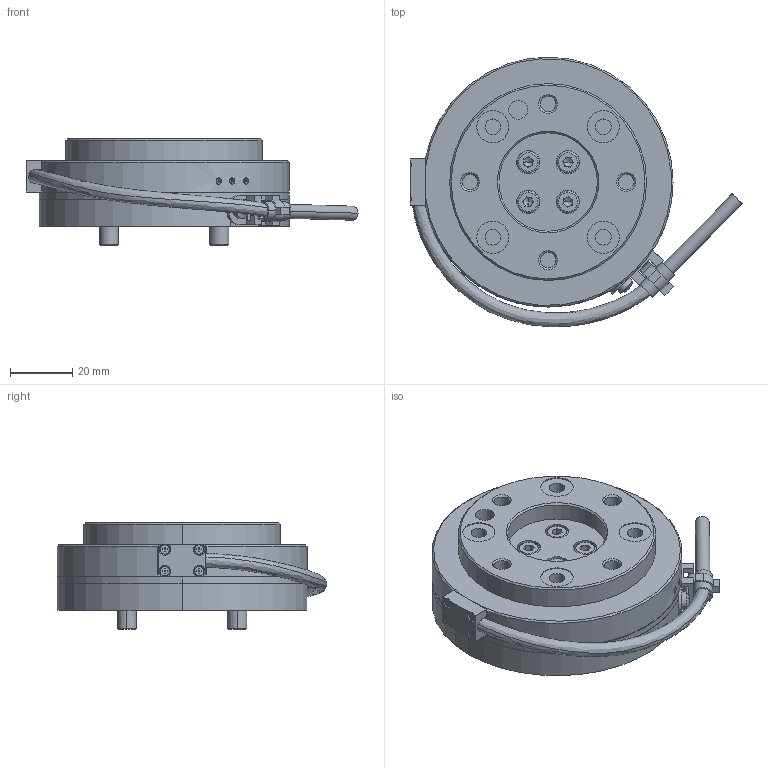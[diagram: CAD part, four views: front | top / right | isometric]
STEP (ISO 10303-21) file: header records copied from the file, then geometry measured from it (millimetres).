
FILE_DESCRIPTION (( 'STEP AP203' ), '1' );
FILE_NAME ('生态套件-星火计划-六维力控传感器，XJC-6F-XD80-H28-F-200N-5NM-F-FA.STEP', '2024-11-08T09:04:46', ( '' ), ( '' ), 'SwSTEP 2.0', 'SolidWorks 2018', '' );
FILE_SCHEMA (( 'CONFIG_CONTROL_DESIGN' ));
Length unit declared in the file: millimetre
Products named in the file (1): 生态套件-星火计划-六维力控传感器，XJC-6F-XD80-H28-F-200N-5NM-F-FA
Bounding box: 106.26 x 86.33 x 34 mm (x, y, z)
Surface area: 33097.6 mm2 (no closed solid volume)
Topology: 0 solids, 27 shells, 293 faces, 1001 edges, 703 vertices
Faces by surface type: plane 137, cylinder 108, cone 37, torus 8, bspline 2, sphere 1
Entity records: 11679 total; most frequent: CARTESIAN_POINT 2788, DIRECTION 1944, ORIENTED_EDGE 1584, EDGE_CURVE 993, VERTEX_POINT 703, AXIS2_PLACEMENT_3D 691, VECTOR 562, LINE 562
